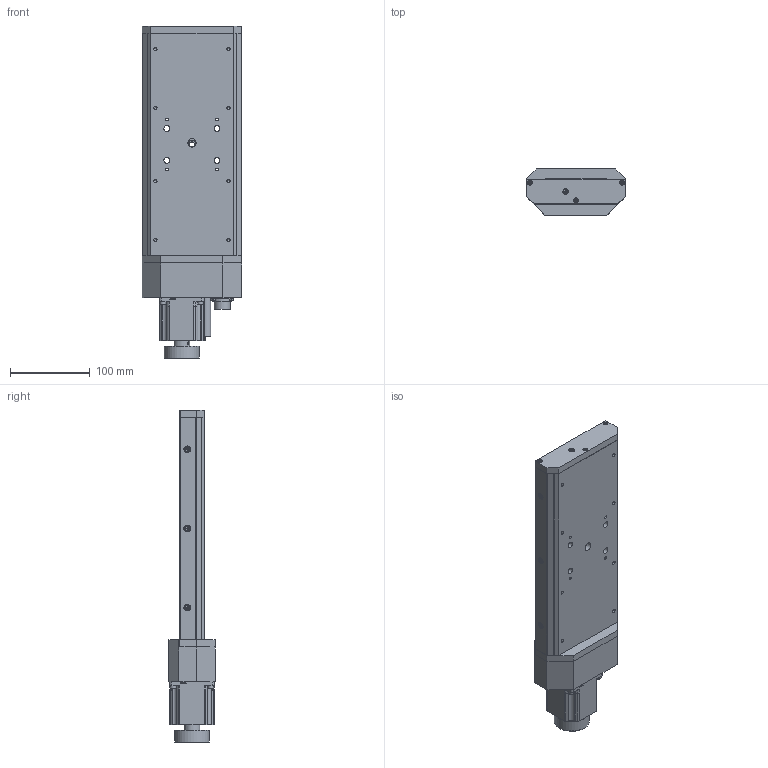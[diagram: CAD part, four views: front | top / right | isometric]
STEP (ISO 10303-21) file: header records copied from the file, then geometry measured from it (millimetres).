
FILE_DESCRIPTION((''),'2;1');
FILE_NAME('C:\Axmo\Axmo autodesk\Designs\Standard\1153 tmf\TMF3-150.stp','2011-09-13T16:12:53',('AXMOBE'),(''),'Autodesk Inventor 2011','Autodesk Inventor 2011','');
FILE_SCHEMA(('AUTOMOTIVE_DESIGN { 1 2 10303 214 0 1 1 1 }'));
Length unit declared in the file: millimetre
Products named in the file (1): 1153 03 ENS 000-150_Enveloppe_1
Bounding box: 125.1 x 58 x 417.5 mm (x, y, z)
Volume: 1110475.7 mm3; surface area: 334686.7 mm2
Topology: 1 solids, 66 shells, 1982 faces, 4860 edges, 3127 vertices
Faces by surface type: plane 1125, cylinder 514, cone 197, torus 77, bspline 53, sphere 16
Full cylindrical faces by diameter (mm): 1 x10, 1.567 x2, 2.013 x22, 2.1 x2, 2.25 x2, 2.459 x73, 2.5 x2, 2.693 x4, 2.8 x2, 3 x27, 3.242 x47, 3.5 x17, 4 x8, 4.134 x8, 4.5 x1, 4.917 x8, 5 x5, 5.5 x20, 5.54 x6, 6 x43, 6.2 x1, 6.35 x3, 6.459 x2, 6.5 x1, 7 x12, 7.5 x16, 8 x2, 9 x1, 10 x4, 10.5 x2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
Entity records: 56113 total; most frequent: CARTESIAN_POINT 12027, DIRECTION 8642, ORIENTED_EDGE 7788, EDGE_CURVE 3894, AXIS2_PLACEMENT_3D 3250, EDGE_LOOP 2895, VERTEX_POINT 2797, VECTOR 2142
